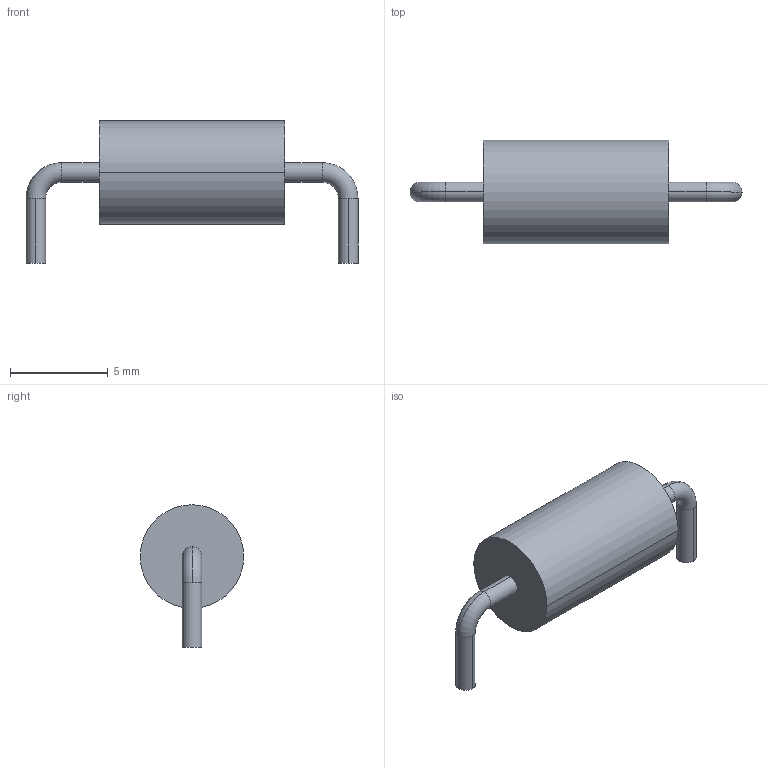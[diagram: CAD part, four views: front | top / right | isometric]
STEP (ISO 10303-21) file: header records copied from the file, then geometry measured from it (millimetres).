
FILE_DESCRIPTION (( 'STEP AP214' ), '1' );
FILE_NAME ( 'DIONPAD1600W100L950D530.STEP', '2021-10-06T06:48:57', ( '' ), ( '' ), '', '©2017 PCB Libraries, Inc.', '' );
FILE_SCHEMA (( 'AUTOMOTIVE_DESIGN' ));
Length unit declared in the file: millimetre
Products named in the file (1): DIONPAD1600W100L950D530
Bounding box: 17 x 5.3 x 7.3 mm (x, y, z)
Volume: 221.2 mm3; surface area: 251.8 mm2
Topology: 3 solids, 3 shells, 20 faces, 38 edges, 24 vertices
Faces by surface type: cylinder 10, plane 6, torus 4
Entity records: 626 total; most frequent: DIRECTION 108, CARTESIAN_POINT 83, ORIENTED_EDGE 76, AXIS2_PLACEMENT_3D 49, EDGE_CURVE 38, CIRCLE 28, VERTEX_POINT 24, STYLED_ITEM 24
